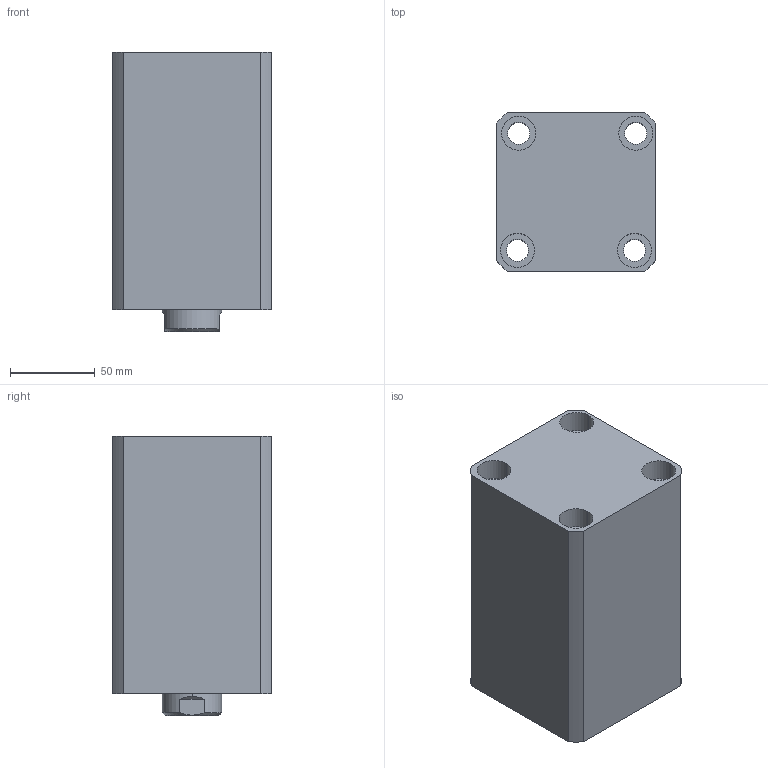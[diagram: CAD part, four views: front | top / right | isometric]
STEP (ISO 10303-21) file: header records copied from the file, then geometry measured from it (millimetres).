
FILE_DESCRIPTION (( 'STEP AP214' ), '1' );
FILE_NAME ('chtb-sdma63x85n_asm.STEP', '2018-05-16T02:45:14', ( 'Windows' ), ( 'Microsoft' ), 'SwSTEP 2.0', 'SolidWorks 2015', '' );
FILE_SCHEMA (( 'AUTOMOTIVE_DESIGN' ));
Length unit declared in the file: millimetre
Products named in the file (4): CHTB-SDMA63X85NBT; CHTB63X85NHSG; CHTB-63QG; chtb-sdma63x85n_asm
Assembly tree (3 placements, depth 2):
  chtb-sdma63x85n_asm
    CHTB-63QG
    CHTB63X85NHSG
    CHTB-SDMA63X85NBT
Bounding box: 94 x 94 x 165 mm (x, y, z)
Volume: 1047190.6 mm3; surface area: 175263.6 mm2
Topology: 3 solids, 3 shells, 165 faces, 472 edges, 321 vertices
Faces by surface type: cylinder 107, plane 31, bspline 12, cone 8, torus 7
Entity records: 17727 total; most frequent: CARTESIAN_POINT 13576, ORIENTED_EDGE 932, DIRECTION 716, EDGE_CURVE 466, VERTEX_POINT 321, AXIS2_PLACEMENT_3D 288, EDGE_LOOP 197, FACE_OUTER_BOUND 165
